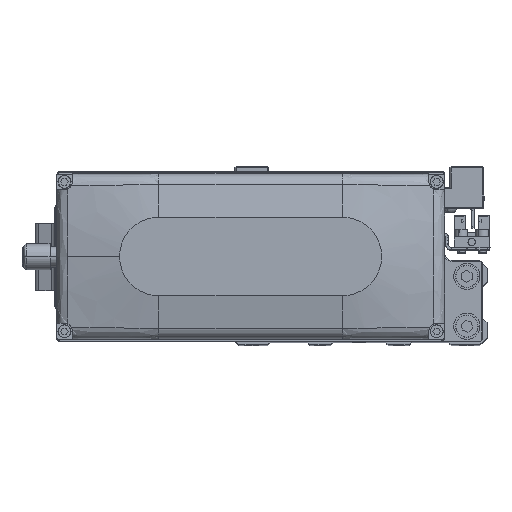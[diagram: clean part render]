
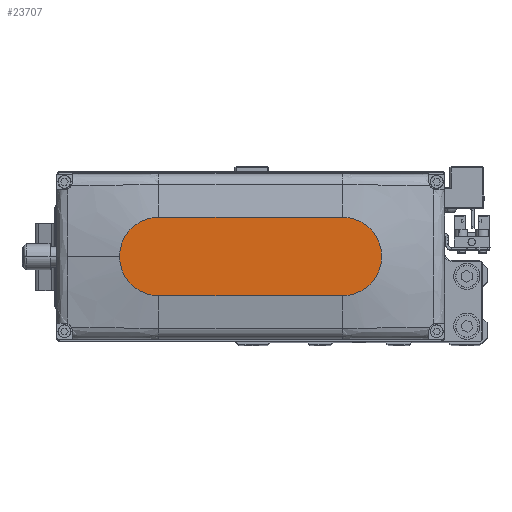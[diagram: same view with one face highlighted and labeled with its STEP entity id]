
A CAD part, top view. The second image highlights one B-rep face of the part: STEP entity #23707.
In plain terms, the highlighted planar face has unit normal (0, 0, 1).
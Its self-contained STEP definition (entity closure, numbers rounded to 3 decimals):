
#360 = EDGE_CURVE ( 'NONE', #7305, #10943, #23791, .T. ) ;
#1071 = CARTESIAN_POINT ( 'NONE',  ( -35., -15., 35. ) ) ;
#3724 = ORIENTED_EDGE ( 'NONE', *, *, #11558, .T. ) ;
#4171 = DIRECTION ( 'NONE',  ( -1., 0., 0. ) ) ;
#4589 = LINE ( 'NONE', #16657, #31582 ) ;
#6779 = AXIS2_PLACEMENT_3D ( 'NONE', #10653, #22692, #34668 ) ;
#7305 = VERTEX_POINT ( 'NONE', #23653 ) ;
#7865 = AXIS2_PLACEMENT_3D ( 'NONE', #14471, #26494, #38465 ) ;
#8403 = CARTESIAN_POINT ( 'NONE',  ( 35., -15., 35. ) ) ;
#9324 = EDGE_LOOP ( 'NONE', ( #3724, #22446, #9820, #14222, #23970 ) ) ;
#9820 = ORIENTED_EDGE ( 'NONE', *, *, #24543, .T. ) ;
#9907 = VERTEX_POINT ( 'NONE', #1071 ) ;
#10651 = CARTESIAN_POINT ( 'NONE',  ( 0., 0., 35. ) ) ;
#10653 = CARTESIAN_POINT ( 'NONE',  ( 35., 0., 35. ) ) ;
#10943 = VERTEX_POINT ( 'NONE', #35404 ) ;
#11558 = EDGE_CURVE ( 'NONE', #10943, #29260, #19196, .T. ) ;
#12016 = AXIS2_PLACEMENT_3D ( 'NONE', #14550, #26572, #38546 ) ;
#14147 = VERTEX_POINT ( 'NONE', #8403 ) ;
#14222 = ORIENTED_EDGE ( 'NONE', *, *, #25503, .T. ) ;
#14471 = CARTESIAN_POINT ( 'NONE',  ( -35., 0., 35. ) ) ;
#14550 = CARTESIAN_POINT ( 'NONE',  ( 35., 0., 35. ) ) ;
#16657 = CARTESIAN_POINT ( 'NONE',  ( -35., -15., 35. ) ) ;
#17569 = CARTESIAN_POINT ( 'NONE',  ( -35., 15., 35. ) ) ;
#19196 = LINE ( 'NONE', #31186, #24722 ) ;
#20864 = AXIS2_PLACEMENT_3D ( 'NONE', #10651, #22687, #34663 ) ;
#22446 = ORIENTED_EDGE ( 'NONE', *, *, #34377, .T. ) ;
#22687 = DIRECTION ( 'NONE',  ( 0., 0., 1. ) ) ;
#22692 = DIRECTION ( 'NONE',  ( 0., 0., 1. ) ) ;
#23653 = CARTESIAN_POINT ( 'NONE',  ( 50., 0., 35. ) ) ;
#23707 = ADVANCED_FACE ( 'NONE', ( #25641 ), #37600, .T. ) ;
#23791 = CIRCLE ( 'NONE', #6779, 15. ) ;
#23970 = ORIENTED_EDGE ( 'NONE', *, *, #360, .T. ) ;
#24543 = EDGE_CURVE ( 'NONE', #9907, #14147, #4589, .T. ) ;
#24722 = VECTOR ( 'NONE', #4171, 1000. ) ;
#24907 = CIRCLE ( 'NONE', #7865, 15. ) ;
#25503 = EDGE_CURVE ( 'NONE', #14147, #7305, #29024, .T. ) ;
#25641 = FACE_OUTER_BOUND ( 'NONE', #9324, .T. ) ;
#26494 = DIRECTION ( 'NONE',  ( 0., 0., 1. ) ) ;
#26572 = DIRECTION ( 'NONE',  ( 0., 0., 1. ) ) ;
#28652 = DIRECTION ( 'NONE',  ( 1., 0., 0. ) ) ;
#29024 = CIRCLE ( 'NONE', #12016, 15. ) ;
#29260 = VERTEX_POINT ( 'NONE', #17569 ) ;
#31186 = CARTESIAN_POINT ( 'NONE',  ( -35., 15., 35. ) ) ;
#31582 = VECTOR ( 'NONE', #28652, 1000. ) ;
#34377 = EDGE_CURVE ( 'NONE', #29260, #9907, #24907, .T. ) ;
#34663 = DIRECTION ( 'NONE',  ( 1., 0., 0. ) ) ;
#34668 = DIRECTION ( 'NONE',  ( 1., 0., 0. ) ) ;
#35404 = CARTESIAN_POINT ( 'NONE',  ( 35., 15., 35. ) ) ;
#37600 = PLANE ( 'NONE',  #20864 ) ;
#38465 = DIRECTION ( 'NONE',  ( 1., 0., 0. ) ) ;
#38546 = DIRECTION ( 'NONE',  ( 1., 0., 0. ) ) ;
